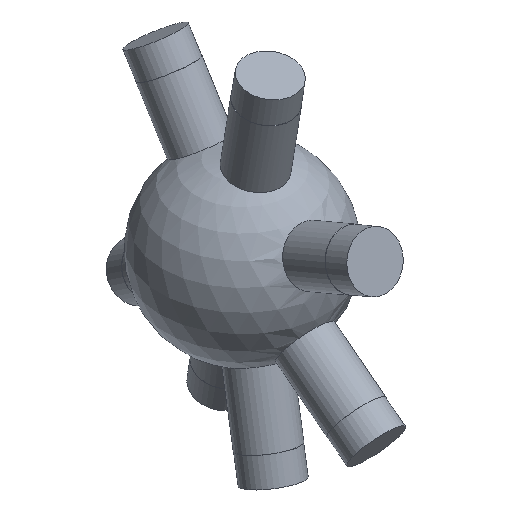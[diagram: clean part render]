
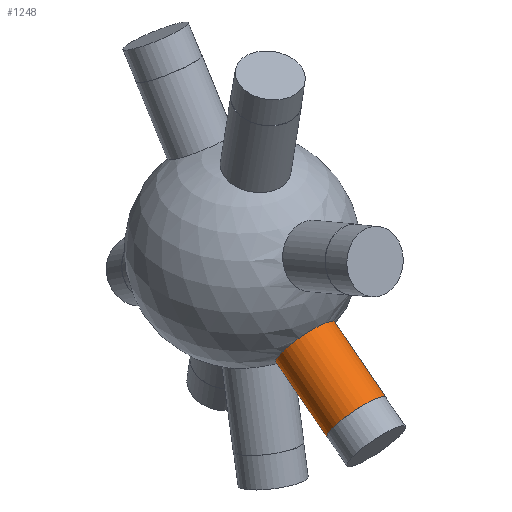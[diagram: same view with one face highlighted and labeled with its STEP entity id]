
A CAD part, isometric view. The second image highlights one B-rep face of the part: STEP entity #1248.
In plain terms, the highlighted cylindrical face has radius 6 mm (diameter 12 mm), a full revolution.
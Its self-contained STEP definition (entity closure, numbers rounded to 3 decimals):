
#33 = SPHERICAL_SURFACE('',#34,20.);
#34 = AXIS2_PLACEMENT_3D('',#35,#36,#37);
#35 = CARTESIAN_POINT('',(0.,0.,0.));
#36 = DIRECTION('',(0.,0.,1.));
#37 = DIRECTION('',(1.,0.,-0.));
#735 = EDGE_CURVE('',#736,#736,#738,.T.);
#736 = VERTEX_POINT('',#737);
#737 = CARTESIAN_POINT('',(-0.911,-12.468,
    -15.612));
#738 = SURFACE_CURVE('',#739,(#744,#813),.PCURVE_S1.);
#739 = CIRCLE('',#740,6.);
#740 = AXIS2_PLACEMENT_3D('',#741,#742,#743);
#741 = CARTESIAN_POINT('',(-0.911,-15.815,
    -10.632));
#742 = DIRECTION('',(-0.048,-0.829,-0.557
    ));
#743 = DIRECTION('',(0.,0.558,-0.83)
  );
#744 = PCURVE('',#33,#745);
#745 = DEFINITIONAL_REPRESENTATION('',(#746),#812);
#746 = B_SPLINE_CURVE_WITH_KNOTS('',8,(#747,#748,#749,#750,#751,#752,
    #753,#754,#755,#756,#757,#758,#759,#760,#761,#762,#763,#764,#765,
    #766,#767,#768,#769,#770,#771,#772,#773,#774,#775,#776,#777,#778,
    #779,#780,#781,#782,#783,#784,#785,#786,#787,#788,#789,#790,#791,
    #792,#793,#794,#795,#796,#797,#798,#799,#800,#801,#802,#803,#804,
    #805,#806,#807,#808,#809,#810,#811),.UNSPECIFIED.,.T.,.F.,(9,7,7,7,7
    ,7,7,7,7,9),(0.,0.393,1.129,1.773,
    2.901,3.746,4.381,5.332,
    5.808,6.283),.UNSPECIFIED.);
#747 = CARTESIAN_POINT('',(4.639,-0.896));
#748 = CARTESIAN_POINT('',(4.663,-0.896));
#749 = CARTESIAN_POINT('',(4.687,-0.896));
#750 = CARTESIAN_POINT('',(4.71,-0.894));
#751 = CARTESIAN_POINT('',(4.733,-0.892));
#752 = CARTESIAN_POINT('',(4.756,-0.888));
#753 = CARTESIAN_POINT('',(4.778,-0.883));
#754 = CARTESIAN_POINT('',(4.8,-0.877));
#755 = CARTESIAN_POINT('',(4.858,-0.858));
#756 = CARTESIAN_POINT('',(4.893,-0.842));
#757 = CARTESIAN_POINT('',(4.924,-0.823));
#758 = CARTESIAN_POINT('',(4.95,-0.802));
#759 = CARTESIAN_POINT('',(4.972,-0.779));
#760 = CARTESIAN_POINT('',(4.989,-0.754));
#761 = CARTESIAN_POINT('',(5.003,-0.728));
#762 = CARTESIAN_POINT('',(5.02,-0.678));
#763 = CARTESIAN_POINT('',(5.025,-0.654));
#764 = CARTESIAN_POINT('',(5.027,-0.63));
#765 = CARTESIAN_POINT('',(5.026,-0.605));
#766 = CARTESIAN_POINT('',(5.023,-0.581));
#767 = CARTESIAN_POINT('',(5.018,-0.557));
#768 = CARTESIAN_POINT('',(5.01,-0.534));
#769 = CARTESIAN_POINT('',(4.984,-0.472));
#770 = CARTESIAN_POINT('',(4.961,-0.434));
#771 = CARTESIAN_POINT('',(4.933,-0.4));
#772 = CARTESIAN_POINT('',(4.9,-0.369));
#773 = CARTESIAN_POINT('',(4.864,-0.343));
#774 = CARTESIAN_POINT('',(4.824,-0.322));
#775 = CARTESIAN_POINT('',(4.782,-0.306));
#776 = CARTESIAN_POINT('',(4.707,-0.289));
#777 = CARTESIAN_POINT('',(4.674,-0.284));
#778 = CARTESIAN_POINT('',(4.641,-0.284));
#779 = CARTESIAN_POINT('',(4.608,-0.286));
#780 = CARTESIAN_POINT('',(4.575,-0.292));
#781 = CARTESIAN_POINT('',(4.543,-0.301));
#782 = CARTESIAN_POINT('',(4.512,-0.313));
#783 = CARTESIAN_POINT('',(4.46,-0.339));
#784 = CARTESIAN_POINT('',(4.439,-0.352));
#785 = CARTESIAN_POINT('',(4.419,-0.367));
#786 = CARTESIAN_POINT('',(4.399,-0.383));
#787 = CARTESIAN_POINT('',(4.382,-0.4));
#788 = CARTESIAN_POINT('',(4.365,-0.419));
#789 = CARTESIAN_POINT('',(4.35,-0.438));
#790 = CARTESIAN_POINT('',(4.317,-0.49));
#791 = CARTESIAN_POINT('',(4.301,-0.523));
#792 = CARTESIAN_POINT('',(4.289,-0.557));
#793 = CARTESIAN_POINT('',(4.282,-0.593));
#794 = CARTESIAN_POINT('',(4.28,-0.629));
#795 = CARTESIAN_POINT('',(4.284,-0.665));
#796 = CARTESIAN_POINT('',(4.294,-0.701));
#797 = CARTESIAN_POINT('',(4.321,-0.75));
#798 = CARTESIAN_POINT('',(4.331,-0.766));
#799 = CARTESIAN_POINT('',(4.344,-0.782));
#800 = CARTESIAN_POINT('',(4.358,-0.797));
#801 = CARTESIAN_POINT('',(4.374,-0.811));
#802 = CARTESIAN_POINT('',(4.392,-0.824));
#803 = CARTESIAN_POINT('',(4.411,-0.836));
#804 = CARTESIAN_POINT('',(4.454,-0.858));
#805 = CARTESIAN_POINT('',(4.477,-0.868));
#806 = CARTESIAN_POINT('',(4.502,-0.876));
#807 = CARTESIAN_POINT('',(4.528,-0.883));
#808 = CARTESIAN_POINT('',(4.555,-0.889));
#809 = CARTESIAN_POINT('',(4.583,-0.892));
#810 = CARTESIAN_POINT('',(4.611,-0.895));
#811 = CARTESIAN_POINT('',(4.639,-0.896));
#812 = ( GEOMETRIC_REPRESENTATION_CONTEXT(2) 
PARAMETRIC_REPRESENTATION_CONTEXT() REPRESENTATION_CONTEXT('2D SPACE',''
  ) );
#813 = PCURVE('',#814,#819);
#814 = CYLINDRICAL_SURFACE('',#815,6.);
#815 = AXIS2_PLACEMENT_3D('',#816,#817,#818);
#816 = CARTESIAN_POINT('',(0.,0.,0.));
#817 = DIRECTION('',(-0.048,-0.829,-0.557
    ));
#818 = DIRECTION('',(0.,0.558,-0.83)
  );
#819 = DEFINITIONAL_REPRESENTATION('',(#820),#824);
#820 = LINE('',#821,#822);
#821 = CARTESIAN_POINT('',(0.,19.079));
#822 = VECTOR('',#823,1.);
#823 = DIRECTION('',(1.,0.));
#824 = ( GEOMETRIC_REPRESENTATION_CONTEXT(2) 
PARAMETRIC_REPRESENTATION_CONTEXT() REPRESENTATION_CONTEXT('2D SPACE',''
  ) );
#1248 = ADVANCED_FACE('',(#1249),#814,.T.);
#1249 = FACE_BOUND('',#1250,.T.);
#1250 = EDGE_LOOP('',(#1251,#1274,#1301,#1302));
#1251 = ORIENTED_EDGE('',*,*,#1252,.T.);
#1252 = EDGE_CURVE('',#736,#1253,#1255,.T.);
#1253 = VERTEX_POINT('',#1254);
#1254 = CARTESIAN_POINT('',(-1.656,-25.392,
    -24.3));
#1255 = SEAM_CURVE('',#1256,(#1260,#1267),.PCURVE_S1.);
#1256 = LINE('',#1257,#1258);
#1257 = CARTESIAN_POINT('',(0.,3.348,
    -4.979));
#1258 = VECTOR('',#1259,1.);
#1259 = DIRECTION('',(-0.048,-0.829,
    -0.557));
#1260 = PCURVE('',#814,#1261);
#1261 = DEFINITIONAL_REPRESENTATION('',(#1262),#1266);
#1262 = LINE('',#1263,#1264);
#1263 = CARTESIAN_POINT('',(6.283,-0.));
#1264 = VECTOR('',#1265,1.);
#1265 = DIRECTION('',(0.,1.));
#1266 = ( GEOMETRIC_REPRESENTATION_CONTEXT(2) 
PARAMETRIC_REPRESENTATION_CONTEXT() REPRESENTATION_CONTEXT('2D SPACE',''
  ) );
#1267 = PCURVE('',#814,#1268);
#1268 = DEFINITIONAL_REPRESENTATION('',(#1269),#1273);
#1269 = LINE('',#1270,#1271);
#1270 = CARTESIAN_POINT('',(0.,-0.));
#1271 = VECTOR('',#1272,1.);
#1272 = DIRECTION('',(0.,1.));
#1273 = ( GEOMETRIC_REPRESENTATION_CONTEXT(2) 
PARAMETRIC_REPRESENTATION_CONTEXT() REPRESENTATION_CONTEXT('2D SPACE',''
  ) );
#1274 = ORIENTED_EDGE('',*,*,#1275,.F.);
#1275 = EDGE_CURVE('',#1253,#1253,#1276,.T.);
#1276 = SURFACE_CURVE('',#1277,(#1282,#1289),.PCURVE_S1.);
#1277 = CIRCLE('',#1278,6.);
#1278 = AXIS2_PLACEMENT_3D('',#1279,#1280,#1281);
#1279 = CARTESIAN_POINT('',(-1.656,-28.739,
    -19.321));
#1280 = DIRECTION('',(-0.048,-0.829,
    -0.557));
#1281 = DIRECTION('',(0.,0.558,-0.83)
  );
#1282 = PCURVE('',#814,#1283);
#1283 = DEFINITIONAL_REPRESENTATION('',(#1284),#1288);
#1284 = LINE('',#1285,#1286);
#1285 = CARTESIAN_POINT('',(0.,34.67));
#1286 = VECTOR('',#1287,1.);
#1287 = DIRECTION('',(1.,0.));
#1288 = ( GEOMETRIC_REPRESENTATION_CONTEXT(2) 
PARAMETRIC_REPRESENTATION_CONTEXT() REPRESENTATION_CONTEXT('2D SPACE',''
  ) );
#1289 = PCURVE('',#1290,#1295);
#1290 = PLANE('',#1291);
#1291 = AXIS2_PLACEMENT_3D('',#1292,#1293,#1294);
#1292 = CARTESIAN_POINT('',(-1.656,-28.739,
    -19.321));
#1293 = DIRECTION('',(-0.048,-0.829,
    -0.557));
#1294 = DIRECTION('',(0.,0.558,-0.83)
  );
#1295 = DEFINITIONAL_REPRESENTATION('',(#1296),#1300);
#1296 = CIRCLE('',#1297,6.);
#1297 = AXIS2_PLACEMENT_2D('',#1298,#1299);
#1298 = CARTESIAN_POINT('',(0.,0.));
#1299 = DIRECTION('',(1.,0.));
#1300 = ( GEOMETRIC_REPRESENTATION_CONTEXT(2) 
PARAMETRIC_REPRESENTATION_CONTEXT() REPRESENTATION_CONTEXT('2D SPACE',''
  ) );
#1301 = ORIENTED_EDGE('',*,*,#1252,.F.);
#1302 = ORIENTED_EDGE('',*,*,#735,.T.);
